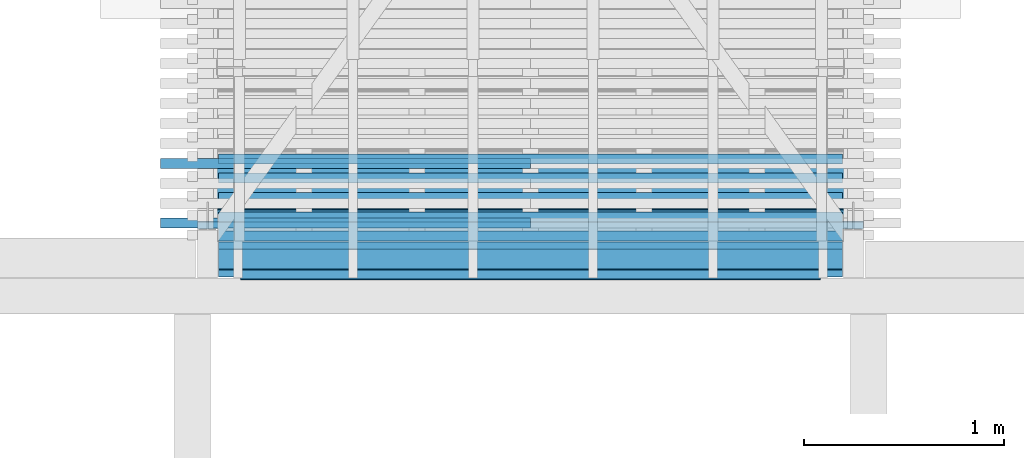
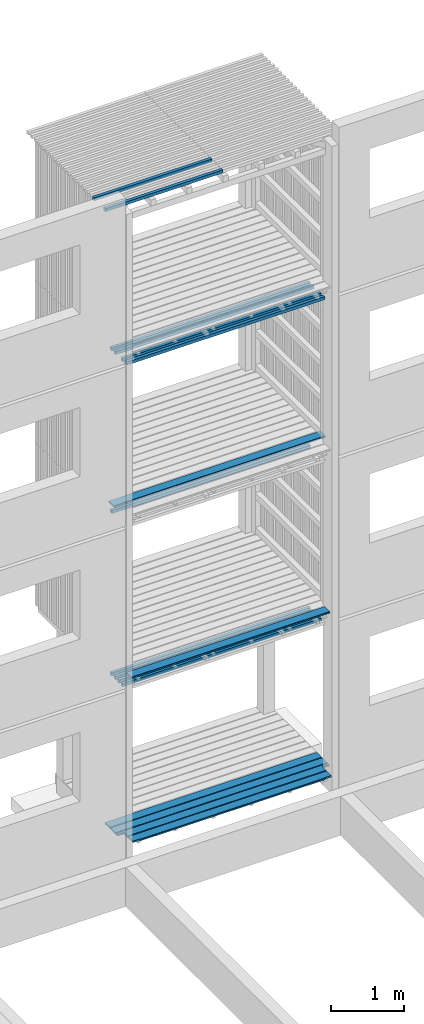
# One storey, part 85 of 182: 17 beams.
"""IFC2X3 building model written with IfcOpenShell, lengths in metres."""

from ifc_helpers import new_model, si_unit, frame, origin, place, context, project, spatial, faceted_brep, element, save


model = new_model("IFC2X3")

# Units and contexts
model_context = context("Model", 3, precision=1e-06, world=origin())
ifc_project = project(units=[si_unit("LENGTHUNIT", "METRE"), si_unit("PLANEANGLEUNIT", "RADIAN")], contexts=[model_context])

# Site, building, storey
site = spatial("IfcSite", under=ifc_project, CompositionType="ELEMENT")
building = spatial("IfcBuilding", under=site, CompositionType="ELEMENT")
storey = spatial("IfcBuildingStorey", under=building, Name="vs", CompositionType="ELEMENT", Elevation=-0.85)

# Beams
placement = place(None, origin())
beam_1_placement = place(placement, frame((46.240401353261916, 5.467577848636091, 2.467999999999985), z_axis=(0.0, 0.0, 1.0), x_axis=(-1.0, -1e-15, 0.0)))
element("IfcBeam", 1, at=beam_1_placement, inside=storey, Name="Bardage", context=model_context, shape_type="Brep", body=[
    faceted_brep([(3.120000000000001, 0.025000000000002, -0.025), (3.120000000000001, -0.025000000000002, -0.025), (-3e-15, -0.024999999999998, -0.025), (-3e-15, 0.025000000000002, -0.025), (-3e-15, -0.024999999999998, -0.025), (3.120000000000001, -0.025000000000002, -0.025), (3.120000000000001, -0.025000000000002, 0.025), (-3e-15, -0.024999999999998, 0.025), (3.120000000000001, -0.025000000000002, -0.025), (3.120000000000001, 0.025000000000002, -0.025), (3.120000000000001, 0.025000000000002, 0.025), (3.120000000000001, -0.025000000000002, 0.025), (3.120000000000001, 0.025000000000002, 0.025), (3.120000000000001, 0.025000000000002, -0.025), (-3e-15, 0.025000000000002, -0.025), (-3e-15, 0.025000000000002, 0.025), (-3e-15, -0.024999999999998, 0.025), (3.120000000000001, -0.025000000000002, 0.025), (3.120000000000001, 0.025000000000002, 0.025), (-3e-15, 0.025000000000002, 0.025), (-3e-15, -0.024999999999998, -0.025), (-3e-15, -0.024999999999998, 0.025), (-3e-15, 0.025000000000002, 0.025), (-3e-15, 0.025000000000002, -0.025)], [[[0, 1, 2, 3]], [[4, 5, 6, 7]], [[8, 9, 10, 11]], [[12, 13, 14, 15]], [[16, 17, 18, 19]], [[20, 21, 22, 23]]]),
])
beam_2_placement = place(placement, frame((46.345401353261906, 5.384577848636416, 0.033500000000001), z_axis=(0.0, 0.0, 1.0), x_axis=(-1.0, -1e-15, 0.0)))
element("IfcBeam", 2, at=beam_2_placement, inside=storey, Name="Caillebotis", context=model_context, shape_type="Brep", body=[
    faceted_brep([(3.329999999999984, -0.067500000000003, 0.0135), (3.329999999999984, -0.072500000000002, 0.008500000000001), (3.329999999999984, -0.072499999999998, -0.013500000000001), (3.329999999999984, 0.072499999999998, -0.013500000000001), (3.329999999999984, 0.072499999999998, 0.0085), (3.329999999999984, 0.067500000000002, 0.0135), (0.0, 0.067500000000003, 0.0135), (0.0, 0.072500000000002, 0.0085), (0.0, 0.072500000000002, -0.013500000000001), (0.0, -0.072499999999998, -0.013500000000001), (0.0, -0.072499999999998, 0.008500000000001), (0.0, -0.067499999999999, 0.0135), (3.329999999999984, -0.072499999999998, -0.013500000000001), (3.329999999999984, -0.072500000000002, 0.008500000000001), (0.0, -0.072499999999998, 0.008500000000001), (0.0, -0.072499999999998, -0.013500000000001), (3.329999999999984, 0.072499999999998, -0.013500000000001), (3.329999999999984, -0.072499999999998, -0.013500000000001), (0.0, -0.072499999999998, -0.013500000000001), (0.0, 0.072500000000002, -0.013500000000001), (3.329999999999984, 0.072499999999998, 0.0085), (3.329999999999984, 0.072499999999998, -0.013500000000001), (0.0, 0.072500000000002, -0.013500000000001), (0.0, 0.072500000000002, 0.0085), (3.329999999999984, 0.067500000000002, 0.0135), (3.329999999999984, 0.072499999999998, 0.0085), (0.0, 0.072500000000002, 0.0085), (0.0, 0.067500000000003, 0.0135), (3.329999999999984, -0.067500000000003, 0.0135), (3.329999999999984, 0.067500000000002, 0.0135), (0.0, 0.067500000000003, 0.0135), (0.0, -0.067499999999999, 0.0135), (0.0, -0.072499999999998, 0.008500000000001), (3.329999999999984, -0.072500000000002, 0.008500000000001), (3.329999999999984, -0.067500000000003, 0.0135), (0.0, -0.067499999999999, 0.0135)], [[[0, 1, 2, 3, 4, 5]], [[6, 7, 8, 9, 10, 11]], [[12, 13, 14, 15]], [[16, 17, 18, 19]], [[20, 21, 22, 23]], [[24, 25, 26, 27]], [[28, 29, 30, 31]], [[32, 33, 34, 35]]]),
])
beam_3_placement = place(placement, frame((46.240401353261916, 4.934577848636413, 0.033500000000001), z_axis=(0.0, 0.0, 1.0), x_axis=(-1.0, 0.0, 0.0)))
element("IfcBeam", 3, at=beam_3_placement, inside=storey, Name="Caillebotis", context=model_context, shape_type="Brep", body=[
    faceted_brep([(0.109999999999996, 0.072499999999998, 0.0085), (3.010000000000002, 0.072499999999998, 0.0085), (3.010000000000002, 0.072499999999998, -0.013500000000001), (0.109999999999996, 0.072499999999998, -0.0135), (0.109999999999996, 0.067499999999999, 0.0135), (3.010000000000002, 0.067499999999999, 0.0135), (3.010000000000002, 0.072499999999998, 0.0085), (0.109999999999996, 0.072499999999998, 0.0085), (0.109999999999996, 0.05950000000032, 0.0135), (0.109999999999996, 0.067499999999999, 0.0135), (0.109999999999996, 0.072499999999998, 0.0085), (0.109999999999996, 0.072499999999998, -0.0135), (0.109999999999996, 0.05950000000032, -0.0135), (0.109999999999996, 0.05950000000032, 0.0135), (0.109999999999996, 0.05950000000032, -0.0135), (-3e-15, 0.05950000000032, -0.0135), (-3e-15, 0.05950000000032, 0.0135), (-3e-15, -0.072500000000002, 0.008500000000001), (3.120000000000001, -0.072500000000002, 0.008500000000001), (3.120000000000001, -0.067500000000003, 0.0135), (-3e-15, -0.067500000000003, 0.0135), (-3e-15, -0.072500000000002, -0.0135), (-3e-15, -0.072500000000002, 0.008500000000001), (-3e-15, -0.067500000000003, 0.0135), (-3e-15, 0.05950000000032, 0.0135), (-3e-15, 0.05950000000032, -0.0135), (3.010000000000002, 0.067499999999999, 0.0135), (0.109999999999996, 0.067499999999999, 0.0135), (0.109999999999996, 0.05950000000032, 0.0135), (-3e-15, 0.05950000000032, 0.0135), (-3e-15, -0.067500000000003, 0.0135), (3.120000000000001, -0.067500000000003, 0.0135), (3.120000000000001, 0.05950000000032, 0.0135), (3.010000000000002, 0.05950000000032, 0.0135), (3.010000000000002, 0.05950000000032, -0.013500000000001), (3.010000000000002, 0.072499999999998, -0.013500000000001), (3.010000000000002, 0.072499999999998, 0.0085), (3.010000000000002, 0.067499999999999, 0.0135), (3.010000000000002, 0.05950000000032, 0.0135), (3.010000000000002, 0.05950000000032, -0.013500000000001), (3.010000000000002, 0.05950000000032, 0.0135), (3.120000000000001, 0.05950000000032, 0.0135), (3.120000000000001, 0.05950000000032, -0.013500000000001), (-3e-15, -0.072500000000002, -0.0135), (-3e-15, 0.05950000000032, -0.0135), (0.109999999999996, 0.05950000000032, -0.0135), (0.109999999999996, 0.072499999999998, -0.0135), (3.010000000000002, 0.072499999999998, -0.013500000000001), (3.010000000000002, 0.05950000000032, -0.013500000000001), (3.120000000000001, 0.05950000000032, -0.013500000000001), (3.120000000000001, -0.072500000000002, -0.013500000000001), (-3e-15, -0.072500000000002, 0.008500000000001), (-3e-15, -0.072500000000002, -0.0135), (3.120000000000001, -0.072500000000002, -0.013500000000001), (3.120000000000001, -0.072500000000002, 0.008500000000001), (3.120000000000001, 0.05950000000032, 0.0135), (3.120000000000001, -0.067500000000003, 0.0135), (3.120000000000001, -0.072500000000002, 0.008500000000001), (3.120000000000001, -0.072500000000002, -0.013500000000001), (3.120000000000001, 0.05950000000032, -0.013500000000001)], [[[0, 1, 2, 3]], [[4, 5, 6, 7]], [[8, 9, 10, 11, 12]], [[13, 14, 15, 16]], [[17, 18, 19, 20]], [[21, 22, 23, 24, 25]], [[26, 27, 28, 29, 30, 31, 32, 33]], [[34, 35, 36, 37, 38]], [[39, 40, 41, 42]], [[43, 44, 45, 46, 47, 48, 49, 50]], [[51, 52, 53, 54]], [[55, 56, 57, 58, 59]]]),
])
beam_4_placement = place(placement, frame((46.240401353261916, 5.176952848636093, 7.867999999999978), z_axis=(0.0, 0.0, 1.0), x_axis=(-1.0, 0.0, 0.0)))
element("IfcBeam", 4, at=beam_4_placement, inside=storey, Name="Bardage", context=model_context, shape_type="Brep", body=[
    faceted_brep([(3.120000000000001, 0.025000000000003, -0.025000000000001), (3.120000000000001, -0.024999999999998, -0.025000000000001), (-3e-15, -0.024999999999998, -0.025000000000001), (-3e-15, 0.025000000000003, -0.025000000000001), (-3e-15, -0.024999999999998, -0.025000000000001), (3.120000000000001, -0.024999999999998, -0.025000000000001), (3.120000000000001, -0.024999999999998, 0.024999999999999), (-3e-15, -0.024999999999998, 0.024999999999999), (3.120000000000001, -0.024999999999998, -0.025000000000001), (3.120000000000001, 0.025000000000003, -0.025000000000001), (3.120000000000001, 0.025000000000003, 0.024999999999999), (3.120000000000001, -0.024999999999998, 0.024999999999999), (3.120000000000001, 0.025000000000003, 0.024999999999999), (3.120000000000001, 0.025000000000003, -0.025000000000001), (-3e-15, 0.025000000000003, -0.025000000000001), (-3e-15, 0.025000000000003, 0.024999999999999), (-3e-15, -0.024999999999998, 0.024999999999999), (3.120000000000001, -0.024999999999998, 0.024999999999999), (3.120000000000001, 0.025000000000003, 0.024999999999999), (-3e-15, 0.025000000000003, 0.024999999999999), (-3e-15, -0.024999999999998, -0.025000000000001), (-3e-15, -0.024999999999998, 0.024999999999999), (-3e-15, 0.025000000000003, 0.024999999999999), (-3e-15, 0.025000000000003, -0.025000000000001)], [[[0, 1, 2, 3]], [[4, 5, 6, 7]], [[8, 9, 10, 11]], [[12, 13, 14, 15]], [[16, 17, 18, 19]], [[20, 21, 22, 23]]]),
])
beam_5_placement = place(placement, frame((46.240401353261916, 5.273827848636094, 2.467999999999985), z_axis=(0.0, 0.0, 1.0), x_axis=(-1.0, 0.0, 0.0)))
element("IfcBeam", 5, at=beam_5_placement, inside=storey, Name="Bardage", context=model_context, shape_type="Brep", body=[
    faceted_brep([(3.120000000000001, 0.025000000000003, -0.025), (3.120000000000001, -0.024999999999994, -0.025), (-3e-15, -0.024999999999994, -0.025), (-3e-15, 0.025000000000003, -0.025), (-3e-15, -0.024999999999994, -0.025), (3.120000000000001, -0.024999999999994, -0.025), (3.120000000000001, -0.024999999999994, 0.025), (-3e-15, -0.024999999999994, 0.025), (3.120000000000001, -0.024999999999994, -0.025), (3.120000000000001, 0.025000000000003, -0.025), (3.120000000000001, 0.025000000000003, 0.025), (3.120000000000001, -0.024999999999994, 0.025), (3.120000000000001, 0.025000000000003, 0.025), (3.120000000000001, 0.025000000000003, -0.025), (-3e-15, 0.025000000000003, -0.025), (-3e-15, 0.025000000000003, 0.025), (-3e-15, -0.024999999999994, 0.025), (3.120000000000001, -0.024999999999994, 0.025), (3.120000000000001, 0.025000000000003, 0.025), (-3e-15, 0.025000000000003, 0.025), (-3e-15, -0.024999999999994, -0.025), (-3e-15, -0.024999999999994, 0.025), (-3e-15, 0.025000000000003, 0.025), (-3e-15, 0.025000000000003, -0.025)], [[[0, 1, 2, 3]], [[4, 5, 6, 7]], [[8, 9, 10, 11]], [[12, 13, 14, 15]], [[16, 17, 18, 19]], [[20, 21, 22, 23]]]),
])
beam_6_placement = place(placement, frame((46.240401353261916, 5.467577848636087, 5.167999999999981), z_axis=(0.0, 0.0, 1.0), x_axis=(-1.0, 0.0, 0.0)))
element("IfcBeam", 6, at=beam_6_placement, inside=storey, Name="Bardage", context=model_context, shape_type="Brep", body=[
    faceted_brep([(3.120000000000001, 0.025000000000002, -0.025), (3.120000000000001, -0.025000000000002, -0.025), (-3e-15, -0.025000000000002, -0.025), (-3e-15, 0.024999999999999, -0.025), (-3e-15, -0.025000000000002, -0.025), (3.120000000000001, -0.025000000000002, -0.025), (3.120000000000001, -0.025000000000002, 0.025000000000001), (-3e-15, -0.025000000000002, 0.025000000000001), (3.120000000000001, -0.025000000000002, -0.025), (3.120000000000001, 0.025000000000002, -0.025), (3.120000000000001, 0.025000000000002, 0.025000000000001), (3.120000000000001, -0.025000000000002, 0.025000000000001), (3.120000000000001, 0.025000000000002, 0.025000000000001), (3.120000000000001, 0.025000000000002, -0.025), (-3e-15, 0.024999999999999, -0.025), (-3e-15, 0.024999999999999, 0.025000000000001), (-3e-15, -0.025000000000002, 0.025000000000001), (3.120000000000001, -0.025000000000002, 0.025000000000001), (3.120000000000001, 0.025000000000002, 0.025000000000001), (-3e-15, 0.024999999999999, 0.025000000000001), (-3e-15, -0.025000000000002, -0.025), (-3e-15, -0.025000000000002, 0.025000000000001), (-3e-15, 0.024999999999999, 0.025000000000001), (-3e-15, 0.024999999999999, -0.025)], [[[0, 1, 2, 3]], [[4, 5, 6, 7]], [[8, 9, 10, 11]], [[12, 13, 14, 15]], [[16, 17, 18, 19]], [[20, 21, 22, 23]]]),
])
beam_7_placement = place(placement, frame((44.68040135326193, 5.445077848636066, 10.47999999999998), z_axis=(0.0, 0.0, 1.0), x_axis=(-1.0, -2e-15, 0.0)))
element("IfcBeam", 7, at=beam_7_placement, inside=storey, Name="Bardage", context=model_context, shape_type="Brep", body=[
    faceted_brep([(1.850000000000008, -0.025000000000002, -0.024999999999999), (1.850000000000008, -0.025000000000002, 0.025000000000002), (-1e-15, -0.025000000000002, 0.025000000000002), (-1e-15, -0.025000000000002, -0.024999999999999), (1.850000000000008, -0.025000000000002, 0.025000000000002), (1.850000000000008, -0.025000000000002, -0.024999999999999), (1.850000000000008, 0.024999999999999, -0.024999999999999), (1.850000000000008, 0.024999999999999, 0.025000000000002), (1.850000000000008, 0.024999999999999, -0.024999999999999), (1.850000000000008, -0.025000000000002, -0.024999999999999), (-1e-15, -0.025000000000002, -0.024999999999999), (-1e-15, 0.025000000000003, -0.024999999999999), (1.850000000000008, 0.024999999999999, 0.025000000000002), (1.850000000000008, 0.024999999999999, -0.024999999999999), (-1e-15, 0.025000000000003, -0.024999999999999), (-1e-15, 0.025000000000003, 0.025000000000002), (-1e-15, -0.025000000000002, 0.025000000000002), (1.850000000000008, -0.025000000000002, 0.025000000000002), (1.850000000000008, 0.024999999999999, 0.025000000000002), (-1e-15, 0.025000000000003, 0.025000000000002), (-1e-15, -0.025000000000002, -0.024999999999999), (-1e-15, -0.025000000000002, 0.025000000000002), (-1e-15, 0.025000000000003, 0.025000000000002), (-1e-15, 0.025000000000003, -0.024999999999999)], [[[0, 1, 2, 3]], [[4, 5, 6, 7]], [[8, 9, 10, 11]], [[12, 13, 14, 15]], [[16, 17, 18, 19]], [[20, 21, 22, 23]]]),
])
beam_8_placement = place(placement, frame((46.240401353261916, 4.984577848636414, 2.733499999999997), z_axis=(0.0, 0.0, 1.0), x_axis=(-1.0, 0.0, 0.0)))
element("IfcBeam", 8, at=beam_8_placement, inside=storey, Name="Caillebotis", context=model_context, shape_type="Brep", body=[
    faceted_brep([(-3e-15, -0.072500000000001, 0.008500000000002), (-3e-15, -0.067500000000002, 0.0135), (-3e-15, 0.067499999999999, 0.0135), (-3e-15, 0.072499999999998, 0.0085), (-3e-15, 0.072499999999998, -0.0135), (-3e-15, -0.072500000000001, -0.0135), (-3e-15, 0.072499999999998, -0.0135), (-3e-15, 0.072499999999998, 0.0085), (3.120000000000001, 0.072499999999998, 0.0085), (3.120000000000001, 0.072499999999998, -0.0135), (-3e-15, -0.072500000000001, -0.0135), (-3e-15, 0.072499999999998, -0.0135), (3.120000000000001, 0.072499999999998, -0.0135), (3.120000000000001, -0.072500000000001, -0.0135), (-3e-15, -0.072500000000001, 0.008500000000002), (-3e-15, -0.072500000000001, -0.0135), (3.120000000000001, -0.072500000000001, -0.0135), (3.120000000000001, -0.072500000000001, 0.008500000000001), (-3e-15, -0.067500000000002, 0.0135), (-3e-15, -0.072500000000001, 0.008500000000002), (3.120000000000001, -0.072500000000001, 0.008500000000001), (3.120000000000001, -0.067500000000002, 0.0135), (-3e-15, 0.067499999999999, 0.0135), (-3e-15, -0.067500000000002, 0.0135), (3.120000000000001, -0.067500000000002, 0.0135), (3.120000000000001, 0.067499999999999, 0.0135), (-3e-15, 0.072499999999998, 0.0085), (-3e-15, 0.067499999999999, 0.0135), (3.120000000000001, 0.067499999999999, 0.0135), (3.120000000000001, 0.072499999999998, 0.0085), (3.120000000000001, -0.072500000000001, -0.0135), (3.120000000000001, 0.072499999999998, -0.0135), (3.120000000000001, 0.072499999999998, 0.0085), (3.120000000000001, 0.067499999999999, 0.0135), (3.120000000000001, -0.067500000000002, 0.0135), (3.120000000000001, -0.072500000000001, 0.008500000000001)], [[[0, 1, 2, 3, 4, 5]], [[6, 7, 8, 9]], [[10, 11, 12, 13]], [[14, 15, 16, 17]], [[18, 19, 20, 21]], [[22, 23, 24, 25]], [[26, 27, 28, 29]], [[30, 31, 32, 33, 34, 35]]]),
])
beam_9_placement = place(placement, frame((46.345401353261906, 5.084577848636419, 0.033500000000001), z_axis=(0.0, 0.0, 1.0), x_axis=(-1.0, 0.0, 0.0)))
element("IfcBeam", 9, at=beam_9_placement, inside=storey, Name="Caillebotis", context=model_context, shape_type="Brep", body=[
    faceted_brep([(0.0, -0.072499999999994, -0.0135), (0.0, -0.072499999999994, 0.008500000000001), (0.0, -0.067499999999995, 0.0135), (0.0, -0.030499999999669, 0.0135), (0.0, -0.030499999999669, -0.0135), (3.329999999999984, -0.067499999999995, 0.0135), (3.329999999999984, -0.030499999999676, 0.0135), (3.224999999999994, -0.030499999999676, 0.0135), (3.224999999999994, 0.067500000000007, 0.0135), (0.104999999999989, 0.067500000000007, 0.0135), (0.104999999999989, -0.030499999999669, 0.0135), (0.0, -0.030499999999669, 0.0135), (0.0, -0.067499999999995, 0.0135), (0.104999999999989, -0.030499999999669, 0.0135), (0.104999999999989, 0.067500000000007, 0.0135), (0.104999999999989, 0.072500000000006, 0.0085), (0.104999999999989, 0.072500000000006, -0.0135), (0.104999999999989, -0.030499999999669, -0.0135), (0.104999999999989, 0.072500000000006, 0.0085), (0.104999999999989, 0.067500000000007, 0.0135), (3.224999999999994, 0.067500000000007, 0.0135), (3.224999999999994, 0.072500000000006, 0.0085), (0.104999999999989, 0.072500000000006, -0.0135), (0.104999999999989, 0.072500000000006, 0.0085), (3.224999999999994, 0.072500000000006, 0.0085), (3.224999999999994, 0.072500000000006, -0.013500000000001), (3.224999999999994, 0.072500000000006, -0.013500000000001), (3.224999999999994, 0.072500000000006, 0.0085), (3.224999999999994, 0.067500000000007, 0.0135), (3.224999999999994, -0.030499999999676, 0.0135), (3.224999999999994, -0.030499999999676, -0.013500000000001), (3.224999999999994, -0.030499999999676, -0.013500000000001), (3.224999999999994, -0.030499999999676, 0.0135), (3.329999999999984, -0.030499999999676, 0.0135), (3.329999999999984, -0.030499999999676, -0.013500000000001), (3.329999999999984, -0.072499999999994, 0.008500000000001), (3.329999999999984, -0.072499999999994, -0.013500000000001), (3.329999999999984, -0.030499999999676, -0.013500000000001), (3.329999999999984, -0.030499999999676, 0.0135), (3.329999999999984, -0.067499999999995, 0.0135), (3.329999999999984, -0.072499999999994, 0.008500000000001), (3.329999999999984, -0.067499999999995, 0.0135), (0.0, -0.067499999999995, 0.0135), (0.0, -0.072499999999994, 0.008500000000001), (3.329999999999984, -0.072499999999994, -0.013500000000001), (3.329999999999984, -0.072499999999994, 0.008500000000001), (0.0, -0.072499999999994, 0.008500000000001), (0.0, -0.072499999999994, -0.0135), (0.104999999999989, -0.030499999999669, -0.0135), (0.104999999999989, 0.072500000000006, -0.0135), (3.224999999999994, 0.072500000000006, -0.013500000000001), (3.224999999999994, -0.030499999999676, -0.013500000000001), (3.329999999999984, -0.030499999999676, -0.013500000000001), (3.329999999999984, -0.072499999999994, -0.013500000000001), (0.0, -0.072499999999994, -0.0135), (0.0, -0.030499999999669, -0.0135), (0.0, -0.030499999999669, 0.0135), (0.104999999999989, -0.030499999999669, 0.0135), (0.104999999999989, -0.030499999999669, -0.0135), (0.0, -0.030499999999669, -0.0135)], [[[0, 1, 2, 3, 4]], [[5, 6, 7, 8, 9, 10, 11, 12]], [[13, 14, 15, 16, 17]], [[18, 19, 20, 21]], [[22, 23, 24, 25]], [[26, 27, 28, 29, 30]], [[31, 32, 33, 34]], [[35, 36, 37, 38, 39]], [[40, 41, 42, 43]], [[44, 45, 46, 47]], [[48, 49, 50, 51, 52, 53, 54, 55]], [[56, 57, 58, 59]]]),
])
beam_10_placement = place(placement, frame((46.240401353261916, 5.176952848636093, 2.467999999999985), z_axis=(0.0, 0.0, 1.0), x_axis=(-1.0, 0.0, 0.0)))
element("IfcBeam", 10, at=beam_10_placement, inside=storey, Name="Bardage", context=model_context, shape_type="Brep", body=[
    faceted_brep([(3.120000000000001, 0.025000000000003, -0.025), (3.120000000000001, -0.024999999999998, -0.025), (-3e-15, -0.024999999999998, -0.025), (-3e-15, 0.025000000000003, -0.025), (-3e-15, -0.024999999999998, -0.025), (3.120000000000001, -0.024999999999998, -0.025), (3.120000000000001, -0.024999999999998, 0.025), (-3e-15, -0.024999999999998, 0.025), (3.120000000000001, -0.024999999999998, -0.025), (3.120000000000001, 0.025000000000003, -0.025), (3.120000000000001, 0.025000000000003, 0.025), (3.120000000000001, -0.024999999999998, 0.025), (3.120000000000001, 0.025000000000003, 0.025), (3.120000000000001, 0.025000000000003, -0.025), (-3e-15, 0.025000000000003, -0.025), (-3e-15, 0.025000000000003, 0.025), (-3e-15, -0.024999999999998, 0.025), (3.120000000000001, -0.024999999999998, 0.025), (3.120000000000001, 0.025000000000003, 0.025), (-3e-15, 0.025000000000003, 0.025), (-3e-15, -0.024999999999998, -0.025), (-3e-15, -0.024999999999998, 0.025), (-3e-15, 0.025000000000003, 0.025), (-3e-15, 0.025000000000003, -0.025)], [[[0, 1, 2, 3]], [[4, 5, 6, 7]], [[8, 9, 10, 11]], [[12, 13, 14, 15]], [[16, 17, 18, 19]], [[20, 21, 22, 23]]]),
])
beam_11_placement = place(placement, frame((46.240401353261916, 5.080077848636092, 7.867999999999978), z_axis=(0.0, 0.0, 1.0), x_axis=(-1.0, 0.0, 0.0)))
element("IfcBeam", 11, at=beam_11_placement, inside=storey, Name="Bardage", context=model_context, shape_type="Brep", body=[
    faceted_brep([(3.120000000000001, -0.025000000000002, 0.024999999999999), (3.120000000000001, -0.025000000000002, -0.025000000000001), (3.120000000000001, 0.024999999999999, -0.025000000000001), (3.120000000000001, 0.024999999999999, 0.024999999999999), (-3e-15, 0.024999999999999, 0.024999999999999), (-3e-15, 0.024999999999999, -0.025000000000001), (-3e-15, -0.024999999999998, -0.025000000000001), (-3e-15, -0.024999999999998, 0.024999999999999), (3.120000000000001, -0.025000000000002, -0.025000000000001), (3.120000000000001, -0.025000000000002, 0.024999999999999), (-3e-15, -0.024999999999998, 0.024999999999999), (-3e-15, -0.024999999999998, -0.025000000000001), (3.120000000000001, 0.024999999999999, -0.025000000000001), (3.120000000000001, -0.025000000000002, -0.025000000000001), (-3e-15, -0.024999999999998, -0.025000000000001), (-3e-15, 0.024999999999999, -0.025000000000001), (3.120000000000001, 0.024999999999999, 0.024999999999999), (3.120000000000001, 0.024999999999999, -0.025000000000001), (-3e-15, 0.024999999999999, -0.025000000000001), (-3e-15, 0.024999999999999, 0.024999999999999), (3.120000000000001, -0.025000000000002, 0.024999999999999), (3.120000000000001, 0.024999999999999, 0.024999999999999), (-3e-15, 0.024999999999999, 0.024999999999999), (-3e-15, -0.024999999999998, 0.024999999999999)], [[[0, 1, 2, 3]], [[4, 5, 6, 7]], [[8, 9, 10, 11]], [[12, 13, 14, 15]], [[16, 17, 18, 19]], [[20, 21, 22, 23]]]),
])
beam_12_placement = place(placement, frame((46.345401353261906, 5.234577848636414, 0.033500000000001), z_axis=(0.0, 0.0, 1.0), x_axis=(-1.0, 0.0, 0.0)))
element("IfcBeam", 12, at=beam_12_placement, inside=storey, Name="Caillebotis", context=model_context, shape_type="Brep", body=[
    faceted_brep([(3.329999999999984, -0.067500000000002, 0.0135), (3.329999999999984, -0.072499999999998, 0.008500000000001), (3.329999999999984, -0.072499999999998, -0.013500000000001), (3.329999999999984, 0.072499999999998, -0.013500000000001), (3.329999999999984, 0.072499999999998, 0.0085), (3.329999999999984, 0.067499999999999, 0.0135), (0.0, 0.067499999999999, 0.0135), (0.0, 0.072499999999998, 0.0085), (0.0, 0.072499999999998, -0.013500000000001), (0.0, -0.072500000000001, -0.013500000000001), (0.0, -0.072500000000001, 0.008500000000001), (0.0, -0.067500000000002, 0.0135), (3.329999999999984, -0.072499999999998, -0.013500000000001), (3.329999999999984, -0.072499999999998, 0.008500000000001), (0.0, -0.072500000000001, 0.008500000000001), (0.0, -0.072500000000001, -0.013500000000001), (3.329999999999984, 0.072499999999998, -0.013500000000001), (3.329999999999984, -0.072499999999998, -0.013500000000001), (0.0, -0.072500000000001, -0.013500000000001), (0.0, 0.072499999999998, -0.013500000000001), (3.329999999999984, 0.072499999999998, 0.0085), (3.329999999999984, 0.072499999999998, -0.013500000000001), (0.0, 0.072499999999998, -0.013500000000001), (0.0, 0.072499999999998, 0.0085), (3.329999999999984, 0.067499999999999, 0.0135), (3.329999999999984, 0.072499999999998, 0.0085), (0.0, 0.072499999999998, 0.0085), (0.0, 0.067499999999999, 0.0135), (3.329999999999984, -0.067500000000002, 0.0135), (3.329999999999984, 0.067499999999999, 0.0135), (0.0, 0.067499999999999, 0.0135), (0.0, -0.067500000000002, 0.0135), (0.0, -0.072500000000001, 0.008500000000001), (3.329999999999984, -0.072499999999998, 0.008500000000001), (3.329999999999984, -0.067500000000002, 0.0135), (0.0, -0.067500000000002, 0.0135)], [[[0, 1, 2, 3, 4, 5]], [[6, 7, 8, 9, 10, 11]], [[12, 13, 14, 15]], [[16, 17, 18, 19]], [[20, 21, 22, 23]], [[24, 25, 26, 27]], [[28, 29, 30, 31]], [[32, 33, 34, 35]]]),
])
beam_13_placement = place(placement, frame((46.240401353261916, 5.467577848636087, 7.867999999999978), z_axis=(0.0, 0.0, 1.0), x_axis=(-1.0, 0.0, 0.0)))
element("IfcBeam", 13, at=beam_13_placement, inside=storey, Name="Bardage", context=model_context, shape_type="Brep", body=[
    faceted_brep([(3.120000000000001, 0.025000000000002, -0.025000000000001), (3.120000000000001, -0.025000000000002, -0.025000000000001), (-3e-15, -0.025000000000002, -0.025000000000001), (-3e-15, 0.024999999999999, -0.025000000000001), (-3e-15, -0.025000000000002, -0.025000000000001), (3.120000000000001, -0.025000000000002, -0.025000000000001), (3.120000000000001, -0.025000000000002, 0.024999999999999), (-3e-15, -0.025000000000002, 0.024999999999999), (3.120000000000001, -0.025000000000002, -0.025000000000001), (3.120000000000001, 0.025000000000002, -0.025000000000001), (3.120000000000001, 0.025000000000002, 0.024999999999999), (3.120000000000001, -0.025000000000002, 0.024999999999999), (3.120000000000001, 0.025000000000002, 0.024999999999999), (3.120000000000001, 0.025000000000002, -0.025000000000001), (-3e-15, 0.024999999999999, -0.025000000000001), (-3e-15, 0.024999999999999, 0.024999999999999), (-3e-15, -0.025000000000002, 0.024999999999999), (3.120000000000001, -0.025000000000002, 0.024999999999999), (3.120000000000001, 0.025000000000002, 0.024999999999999), (-3e-15, 0.024999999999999, 0.024999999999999), (-3e-15, -0.025000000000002, -0.025000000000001), (-3e-15, -0.025000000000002, 0.024999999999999), (-3e-15, 0.024999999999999, 0.024999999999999), (-3e-15, 0.024999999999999, -0.025000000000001)], [[[0, 1, 2, 3]], [[4, 5, 6, 7]], [[8, 9, 10, 11]], [[12, 13, 14, 15]], [[16, 17, 18, 19]], [[20, 21, 22, 23]]]),
])
beam_14_placement = place(placement, frame((46.240401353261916, 5.37070284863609, 2.467999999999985), z_axis=(0.0, 0.0, 1.0), x_axis=(-1.0, -1e-15, 0.0)))
element("IfcBeam", 14, at=beam_14_placement, inside=storey, Name="Bardage", context=model_context, shape_type="Brep", body=[
    faceted_brep([(3.120000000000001, 0.024999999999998, -0.025), (3.120000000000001, -0.025000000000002, -0.025), (-3e-15, -0.024999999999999, -0.025), (-3e-15, 0.025000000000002, -0.025), (-3e-15, -0.024999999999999, -0.025), (3.120000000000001, -0.025000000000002, -0.025), (3.120000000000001, -0.025000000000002, 0.025), (-3e-15, -0.024999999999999, 0.025), (3.120000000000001, -0.025000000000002, -0.025), (3.120000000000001, 0.024999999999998, -0.025), (3.120000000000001, 0.024999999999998, 0.025), (3.120000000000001, -0.025000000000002, 0.025), (3.120000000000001, 0.024999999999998, 0.025), (3.120000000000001, 0.024999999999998, -0.025), (-3e-15, 0.025000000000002, -0.025), (-3e-15, 0.025000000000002, 0.025), (-3e-15, -0.024999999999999, 0.025), (3.120000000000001, -0.025000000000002, 0.025), (3.120000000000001, 0.024999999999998, 0.025), (-3e-15, 0.025000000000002, 0.025), (-3e-15, -0.024999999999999, -0.025), (-3e-15, -0.024999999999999, 0.025), (-3e-15, 0.025000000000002, 0.025), (-3e-15, 0.025000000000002, -0.025)], [[[0, 1, 2, 3]], [[4, 5, 6, 7]], [[8, 9, 10, 11]], [[12, 13, 14, 15]], [[16, 17, 18, 19]], [[20, 21, 22, 23]]]),
])
beam_15_placement = place(placement, frame((46.240401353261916, 5.370702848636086, 7.867999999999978), z_axis=(0.0, 0.0, 1.0), x_axis=(-1.0, 0.0, 0.0)))
element("IfcBeam", 15, at=beam_15_placement, inside=storey, Name="Bardage", context=model_context, shape_type="Brep", body=[
    faceted_brep([(3.120000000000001, 0.024999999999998, -0.025000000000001), (3.120000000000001, -0.025000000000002, -0.025000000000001), (-3e-15, -0.025000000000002, -0.025000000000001), (-3e-15, 0.024999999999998, -0.025000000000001), (-3e-15, -0.025000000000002, -0.025000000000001), (3.120000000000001, -0.025000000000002, -0.025000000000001), (3.120000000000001, -0.025000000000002, 0.024999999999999), (-3e-15, -0.025000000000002, 0.024999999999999), (3.120000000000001, -0.025000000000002, -0.025000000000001), (3.120000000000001, 0.024999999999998, -0.025000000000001), (3.120000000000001, 0.024999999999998, 0.024999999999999), (3.120000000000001, -0.025000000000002, 0.024999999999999), (3.120000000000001, 0.024999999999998, 0.024999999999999), (3.120000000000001, 0.024999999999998, -0.025000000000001), (-3e-15, 0.024999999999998, -0.025000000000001), (-3e-15, 0.024999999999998, 0.024999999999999), (-3e-15, -0.025000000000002, 0.024999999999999), (3.120000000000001, -0.025000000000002, 0.024999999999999), (3.120000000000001, 0.024999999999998, 0.024999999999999), (-3e-15, 0.024999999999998, 0.024999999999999), (-3e-15, -0.025000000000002, -0.025000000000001), (-3e-15, -0.025000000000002, 0.024999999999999), (-3e-15, 0.024999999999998, 0.024999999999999), (-3e-15, 0.024999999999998, -0.025000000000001)], [[[0, 1, 2, 3]], [[4, 5, 6, 7]], [[8, 9, 10, 11]], [[12, 13, 14, 15]], [[16, 17, 18, 19]], [[20, 21, 22, 23]]]),
])
beam_16_placement = place(placement, frame((46.34540135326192, 5.284577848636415, 5.433499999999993), z_axis=(0.0, 0.0, 1.0), x_axis=(-1.0, -2e-15, 0.0)))
element("IfcBeam", 16, at=beam_16_placement, inside=storey, Name="Caillebotis", context=model_context, shape_type="Brep", body=[
    faceted_brep([(3.329999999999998, -0.072500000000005, -0.0135), (3.329999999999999, 0.072499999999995, -0.0135), (3.329999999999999, 0.072499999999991, 0.0085), (3.329999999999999, 0.067499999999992, 0.0135), (3.329999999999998, -0.067500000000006, 0.0135), (3.329999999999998, -0.072500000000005, 0.008500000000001), (0.0, -0.072500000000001, 0.008500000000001), (0.0, -0.067499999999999, 0.0135), (0.0, 0.067500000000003, 0.0135), (0.0, 0.072500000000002, 0.0085), (0.0, 0.072500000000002, -0.0135), (0.0, -0.072500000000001, -0.0135), (3.329999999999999, 0.072499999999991, 0.0085), (3.329999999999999, 0.072499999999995, -0.0135), (0.0, 0.072500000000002, -0.0135), (0.0, 0.072500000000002, 0.0085), (3.329999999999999, 0.067499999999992, 0.0135), (3.329999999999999, 0.072499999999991, 0.0085), (0.0, 0.072500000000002, 0.0085), (0.0, 0.067500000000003, 0.0135), (3.329999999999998, -0.067500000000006, 0.0135), (3.329999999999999, 0.067499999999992, 0.0135), (0.0, 0.067500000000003, 0.0135), (0.0, -0.067499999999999, 0.0135), (3.329999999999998, -0.072500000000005, 0.008500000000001), (3.329999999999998, -0.067500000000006, 0.0135), (0.0, -0.067499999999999, 0.0135), (0.0, -0.072500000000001, 0.008500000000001), (3.329999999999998, -0.072500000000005, -0.0135), (3.329999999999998, -0.072500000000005, 0.008500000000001), (0.0, -0.072500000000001, 0.008500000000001), (0.0, -0.072500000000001, -0.0135), (0.0, 0.072500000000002, -0.0135), (3.329999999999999, 0.072499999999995, -0.0135), (3.329999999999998, -0.072500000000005, -0.0135), (0.0, -0.072500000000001, -0.0135)], [[[0, 1, 2, 3, 4, 5]], [[6, 7, 8, 9, 10, 11]], [[12, 13, 14, 15]], [[16, 17, 18, 19]], [[20, 21, 22, 23]], [[24, 25, 26, 27]], [[28, 29, 30, 31]], [[32, 33, 34, 35]]]),
])
beam_17_placement = place(placement, frame((44.68040135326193, 5.145077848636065, 10.47999999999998), z_axis=(0.0, 0.0, 1.0), x_axis=(-1.0, 0.0, 0.0)))
element("IfcBeam", 17, at=beam_17_placement, inside=storey, Name="Bardage", context=model_context, shape_type="Brep", body=[
    faceted_brep([(1.850000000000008, -0.025000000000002, -0.024999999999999), (1.850000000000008, -0.025000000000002, 0.025000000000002), (-1e-15, -0.025000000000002, 0.025000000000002), (-1e-15, -0.025000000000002, -0.024999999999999), (1.850000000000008, -0.025000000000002, 0.025000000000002), (1.850000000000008, -0.025000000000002, -0.024999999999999), (1.850000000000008, 0.024999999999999, -0.024999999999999), (1.850000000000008, 0.024999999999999, 0.025000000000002), (1.850000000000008, 0.024999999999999, -0.024999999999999), (1.850000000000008, -0.025000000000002, -0.024999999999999), (-1e-15, -0.025000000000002, -0.024999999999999), (-1e-15, 0.024999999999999, -0.024999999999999), (1.850000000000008, 0.024999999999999, 0.025000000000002), (1.850000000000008, 0.024999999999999, -0.024999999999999), (-1e-15, 0.024999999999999, -0.024999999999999), (-1e-15, 0.024999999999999, 0.025000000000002), (-1e-15, -0.025000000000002, 0.025000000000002), (1.850000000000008, -0.025000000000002, 0.025000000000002), (1.850000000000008, 0.024999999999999, 0.025000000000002), (-1e-15, 0.024999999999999, 0.025000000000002), (-1e-15, -0.025000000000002, -0.024999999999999), (-1e-15, -0.025000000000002, 0.025000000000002), (-1e-15, 0.024999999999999, 0.025000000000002), (-1e-15, 0.024999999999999, -0.024999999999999)], [[[0, 1, 2, 3]], [[4, 5, 6, 7]], [[8, 9, 10, 11]], [[12, 13, 14, 15]], [[16, 17, 18, 19]], [[20, 21, 22, 23]]]),
])

save(model, "model.ifc")
